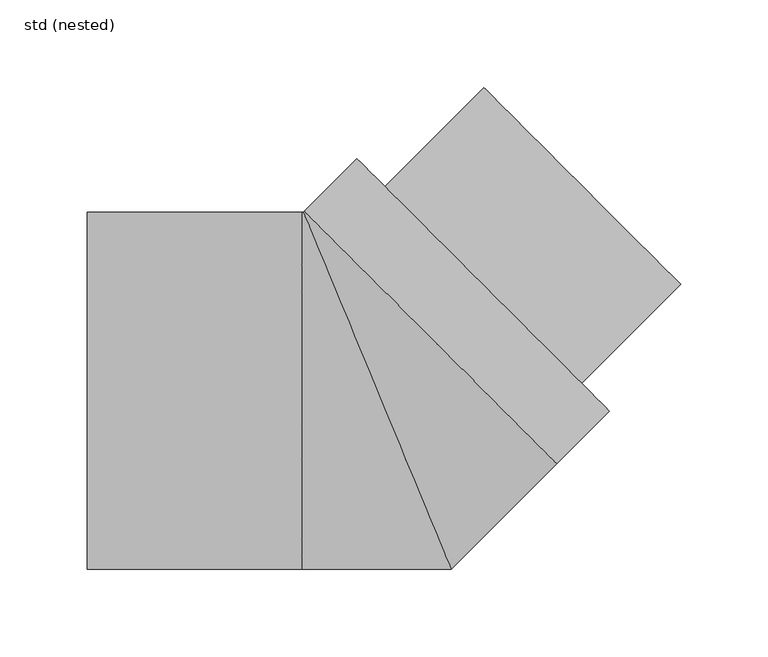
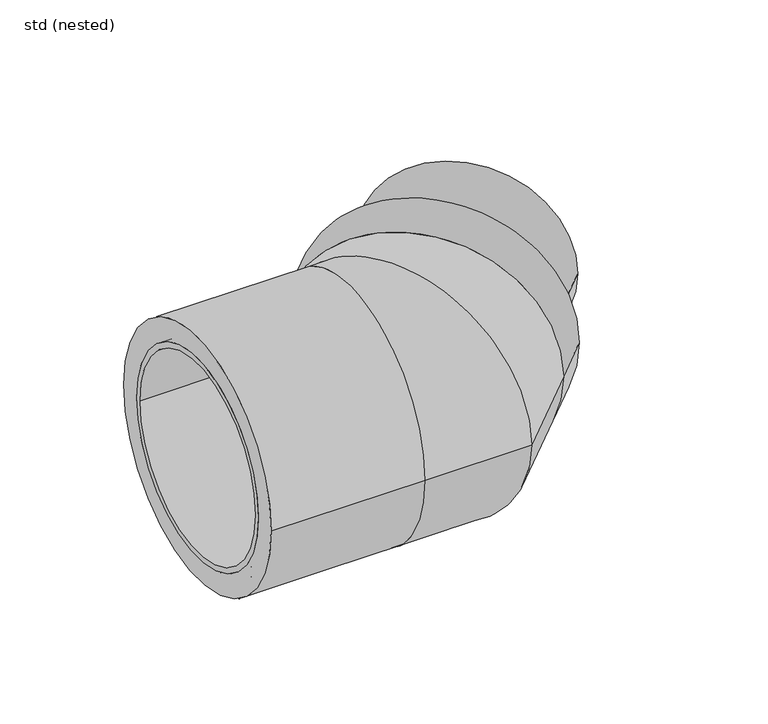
"""IFC4 building model written with IfcOpenShell, lengths in millimetres: pipe fitting geometry, ZZZ_do not use_PIF_ST_WPB_GM-X compound pipe bend_ACO : std (nested)."""

from ifc_helpers import new_model, si_unit, point, frame, frame_2d, origin, place, context, project, spatial, polyline, circle_curve, ellipse_curve, trimmed, segment, composite_curve, outline, extrude, source, transform, mapped, element, save
from ifc_brep_helpers import plane_surface, cylinder_surface, revolved_surface, advanced_brep


def std_nested_bd9adc5b(model_context):
    return source(origin(), model_context, "Body", "SolidModel", [
        advanced_brep(
        [(-156.1, -90.5, 0.0), (-156.1, 90.5, 0.0), (-120.6, 90.5, 0.0), (-120.6, -90.5, 0.0), (-165.6, 84.0, 0.0), (-165.6, -84.0, 0.0), (-165.6, -79.5, 0.0), (-165.6, 79.5, 0.0), (-85.6, 84.0, 0.0), (-85.6, -84.0, 0.0), (-85.6, 79.5, 0.0), (-85.6, -79.5, 0.0), (-156.1, 84.0, 0.0), (-156.1, -84.0, 0.0), (-120.6, -84.0, 0.0), (-120.6, 84.0, 0.0)],
        [
            (0, 1, circle_curve(frame((-156.1, 0.0, 0.0), z_axis=(1.0, 0.0, 0.0), x_axis=(0.0, -1.0, 0.0)), 90.5)),
            (1, 2),
            (2, 3, circle_curve(frame((-120.6, 0.0, 0.0), z_axis=(-1.0, 0.0, 0.0), x_axis=(0.0, -1.0, 0.0)), 90.5)),
            (3, 0),
            (1, 0, circle_curve(frame((-156.1, 0.0, 0.0), z_axis=(1.0, 0.0, 0.0), x_axis=(0.0, -1.0, 0.0)), 90.5)),
            (3, 2, circle_curve(frame((-120.6, 0.0, 0.0), z_axis=(-1.0, 0.0, 0.0), x_axis=(0.0, -1.0, 0.0)), 90.5)),
            (4, 5, circle_curve(frame((-165.6, 0.0, 0.0), z_axis=(-1.0, 0.0, 0.0), x_axis=(0.0, -1.0, 0.0)), 84.0)),
            (5, 4, circle_curve(frame((-165.6, 0.0, 0.0), z_axis=(-1.0, 0.0, 0.0), x_axis=(0.0, -1.0, 0.0)), 84.0)),
            (6, 7, circle_curve(frame((-165.6, 0.0, 0.0), z_axis=(1.0, 0.0, 0.0), x_axis=(0.0, -1.0, 0.0)), 79.5)),
            (7, 6, circle_curve(frame((-165.6, 0.0, 0.0), z_axis=(1.0, 0.0, 0.0), x_axis=(0.0, -1.0, 0.0)), 79.5)),
            (8, 9, circle_curve(frame((-85.6, 0.0, 0.0), z_axis=(1.0, 0.0, 0.0), x_axis=(0.0, -1.0, 0.0)), 84.0)),
            (9, 8, circle_curve(frame((-85.6, 0.0, 0.0), z_axis=(1.0, 0.0, 0.0), x_axis=(0.0, -1.0, 0.0)), 84.0)),
            (10, 11, circle_curve(frame((-85.6, 0.0, 0.0), z_axis=(-1.0, 0.0, 0.0), x_axis=(0.0, -1.0, 0.0)), 79.5)),
            (11, 10, circle_curve(frame((-85.6, 0.0, 0.0), z_axis=(-1.0, 0.0, 0.0), x_axis=(0.0, -1.0, 0.0)), 79.5)),
            (4, 12),
            (12, 13, circle_curve(frame((-156.1, 0.0, 0.0), z_axis=(-1.0, 0.0, 0.0), x_axis=(0.0, -1.0, 0.0)), 84.0)),
            (13, 5),
            (9, 14),
            (14, 15, circle_curve(frame((-120.6, 0.0, 0.0), z_axis=(1.0, 0.0, 0.0), x_axis=(0.0, -1.0, 0.0)), 84.0)),
            (15, 8),
            (13, 12, circle_curve(frame((-156.1, 0.0, 0.0), z_axis=(-1.0, 0.0, 0.0), x_axis=(0.0, -1.0, 0.0)), 84.0)),
            (15, 14, circle_curve(frame((-120.6, 0.0, 0.0), z_axis=(1.0, 0.0, 0.0), x_axis=(0.0, -1.0, 0.0)), 84.0)),
            (6, 11),
            (10, 7),
        ],
        [
            cylinder_surface(frame((-120.6, 0.0, 0.0), z_axis=(-1.0, 0.0, 0.0), x_axis=(0.0, -1.0, 0.0)), 90.5),
            plane_surface(frame((-165.6, -84.0, 0.0), z_axis=(-1.0, 0.0, 0.0), x_axis=(0.0, 0.0, 1.0))),
            plane_surface(frame((-85.6, -84.0, 0.0), z_axis=(1.0, 0.0, 0.0), x_axis=(0.0, 0.0, -1.0))),
            cylinder_surface(frame((-85.6, 0.0, 0.0), z_axis=(-1.0, 0.0, 0.0), x_axis=(0.0, -1.0, 0.0)), 84.0),
            revolved_surface(polyline([(-165.6, -79.5, 0.0), (-85.6, -79.5, 0.0)]), (-85.6, 0.0, 0.0), (-1.0, 0.0, 0.0)),
            plane_surface(frame((-156.1, -90.5, 0.0), z_axis=(-1.0, 0.0, 0.0), x_axis=(0.0, 0.0, 1.0))),
            plane_surface(frame((-120.6, -90.5, 0.0), z_axis=(1.0, 0.0, 0.0), x_axis=(0.0, 0.0, -1.0))),
        ],
        [
            (0, [[1, 2, 3, 4]]),
            (0, [[5, -4, 6, -2]]),
            (1, [[7, 8], [9, 10]]),
            (2, [[11, 12], [13, 14]]),
            (3, [[-7, 15, 16, 17]]),
            (3, [[-12, 18, 19, 20]]),
            (3, [[-8, -17, 21, -15]]),
            (3, [[-11, -20, 22, -18]]),
            (4, [[23, -13, 24, -9]]),
            (4, [[-23, -10, -24, -14]]),
            (5, [[-1, -5], [-16, -21]]),
            (6, [[-6, -3], [-19, -22]]),
        ],
    ),
        extrude(outline(composite_curve([segment(trimmed(circle_curve(frame_2d((0.0, -79.5)), 79.5), [point((0.0, -159.0))], [point((0.0, 0.0))], False, "CARTESIAN"), True, "CONTINUOUS"), segment(trimmed(circle_curve(frame_2d((0.0, -79.5)), 79.5), [point((0.0, 0.0))], [point((0.0, -159.0))], False, "CARTESIAN"), True, "CONTINUOUS")], self_intersect=False)), frame((116.7433296, 4.3133514, 0.0), z_axis=(0.7071067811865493, 0.7071067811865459, 0.0), x_axis=(0.0, 0.0, 1.0)), (0.0, 0.0, 1.0), 80.0),
        advanced_brep(
        [(-165.6, -102.0, 0.0), (-165.6, 102.0, 0.0), (-165.6, 84.0, 0.0), (-165.6, -84.0, 0.0), (-43.0782105, -102.0, 0.0), (-43.0782105, 102.0, 0.0), (42.2497834, -102.0, 0.0), (-42.2497834, 102.0, 0.0), (102.5857864, -41.6639969, 0.0), (-41.6639969, 102.5857864, 0.0), (-85.6, -84.0, 0.0), (-85.6, 84.0, 0.0), (-11.5965512, 132.6532322, 0.0), (132.6532322, -11.5965512, 0.0)],
        [
            (0, 1, circle_curve(frame((-165.6, 0.0, 0.0), z_axis=(-1.0, 0.0, 0.0), x_axis=(0.0, 1.0, 0.0)), 102.0)),
            (1, 0, circle_curve(frame((-165.6, 0.0, 0.0), z_axis=(-1.0, 0.0, 0.0), x_axis=(0.0, 1.0, 0.0)), 102.0)),
            (2, 3, circle_curve(frame((-165.6, 0.0, 0.0), z_axis=(1.0, 0.0, 0.0), x_axis=(0.0, 1.0, 0.0)), 84.0)),
            (3, 2, circle_curve(frame((-165.6, 0.0, 0.0), z_axis=(1.0, 0.0, 0.0), x_axis=(0.0, 1.0, 0.0)), 84.0)),
            (0, 4),
            (4, 5, circle_curve(frame((-43.0782105, 0.0, 0.0), z_axis=(-1.0, 0.0, 0.0), x_axis=(0.0, 1.0, 0.0)), 102.0)),
            (5, 1),
            (5, 4, circle_curve(frame((-43.0782105, 0.0, 0.0), z_axis=(-1.0, 0.0, 0.0), x_axis=(0.0, 1.0, 0.0)), 102.0)),
            (4, 6),
            (6, 7, ellipse_curve(frame((0.0, 0.0, 0.0), z_axis=(-0.9238795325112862, -0.3826834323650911, 0.0), x_axis=(-0.38268343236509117, 0.9238795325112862, 0.0)), 110.4040044, 102.0)),
            (7, 5),
            (7, 6, ellipse_curve(frame((0.0, 0.0, 0.0), z_axis=(-0.9238795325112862, -0.3826834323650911, 0.0), x_axis=(-0.38268343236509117, 0.9238795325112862, 0.0)), 110.4040044, 102.0)),
            (6, 8),
            (8, 9, circle_curve(frame((30.4608948, 30.4608948, 0.0), z_axis=(-0.7071067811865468, -0.7071067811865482, 0.0), x_axis=(-0.7071067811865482, 0.7071067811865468, 0.0)), 102.0)),
            (9, 7),
            (9, 8, circle_curve(frame((30.4608948, 30.4608948, 0.0), z_axis=(-0.7071067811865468, -0.7071067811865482, 0.0), x_axis=(-0.7071067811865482, 0.7071067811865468, 0.0)), 102.0)),
            (10, 11, circle_curve(frame((-85.6, 0.0, 0.0), z_axis=(-1.0, 0.0, 0.0), x_axis=(0.0, 1.0, 0.0)), 84.0)),
            (11, 10, circle_curve(frame((-85.6, 0.0, 0.0), z_axis=(-1.0, 0.0, 0.0), x_axis=(0.0, 1.0, 0.0)), 84.0)),
            (10, 3),
            (2, 11),
            (12, 13, circle_curve(frame((60.5283405, 60.5283405, 0.0), z_axis=(0.7071067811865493, 0.7071067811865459, 0.0), x_axis=(0.7071067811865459, -0.7071067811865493, 0.0)), 102.0)),
            (13, 12, circle_curve(frame((60.5283405, 60.5283405, 0.0), z_axis=(0.7071067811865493, 0.7071067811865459, 0.0), x_axis=(0.7071067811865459, -0.7071067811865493, 0.0)), 102.0)),
            (8, 13),
            (12, 9),
        ],
        [
            plane_surface(frame((-165.6, 102.0, 0.0), z_axis=(-1.0, 0.0, 0.0), x_axis=(0.0, 0.0, -1.0))),
            cylinder_surface(frame((-43.0782105, 0.0, 0.0), z_axis=(-1.0, 0.0, 0.0), x_axis=(0.0, 1.0, 0.0)), 102.0),
            cylinder_surface(frame((0.0, 0.0, 0.0), z_axis=(-0.7071067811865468, -0.7071067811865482, 0.0), x_axis=(-0.7071067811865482, 0.7071067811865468, 0.0)), 102.0),
            plane_surface(frame((-85.6, 84.0, 0.0), z_axis=(-1.0, 0.0, 0.0), x_axis=(0.0, 0.0, 1.0))),
            revolved_surface(polyline([(-165.6, 84.0, 0.0), (-85.6, 84.0, 0.0)]), (-85.6, 0.0, 0.0), (-1.0, 0.0, 0.0)),
            plane_surface(frame((132.6532322, -11.5965512, 0.0), z_axis=(0.7071067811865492, 0.7071067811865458, 0.0), x_axis=(0.0, 0.0, 1.0))),
            cylinder_surface(frame((30.4608948, 30.4608948, 0.0), z_axis=(0.7071067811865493, 0.7071067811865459, 0.0), x_axis=(0.7071067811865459, -0.7071067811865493, 0.0)), 102.0),
        ],
        [
            (0, [[1, 2], [3, 4]]),
            (1, [[-1, 5, 6, 7]]),
            (1, [[-2, -7, 8, -5]]),
            (1, [[9, 10, 11, -6]]),
            (1, [[-9, -8, -11, 12]]),
            (2, [[-10, 13, 14, 15]]),
            (2, [[-12, -15, 16, -13]]),
            (3, [[17, 18]]),
            (4, [[-17, 19, -3, 20]]),
            (4, [[-18, -20, -4, -19]]),
            (5, [[21, 22]]),
            (6, [[-14, 23, -21, 24]]),
            (6, [[-16, -24, -22, -23]]),
        ],
    ),
    ])


if __name__ == "__main__":
    model = new_model("IFC4")
    model_context = context("Model", 3, world=origin())
    ifc_project = project(units=[si_unit("LENGTHUNIT", "METRE", prefix="MILLI")], contexts=[model_context])
    site = spatial("IfcSite", under=ifc_project)
    building = spatial("IfcBuilding", under=site)
    placement = place(None, origin())
    std_nested_shape = std_nested_bd9adc5b(model_context)
    element("IfcPipeFitting", 1, ObjectType="ZZZ_do not use_PIF_ST_WPB_GM-X compound pipe bend_ACO : std (nested)", at=placement, inside=building, context=model_context, shape_type="MappedRepresentation", body=[
        mapped(std_nested_shape, transform((0.0, 0.0, 0.0), x_axis=(1.0, 0.0, 0.0), y_axis=(0.0, 1.0, 0.0), z_axis=(0.0, 0.0, 1.0))),
    ])
    save(model, "model.ifc")
